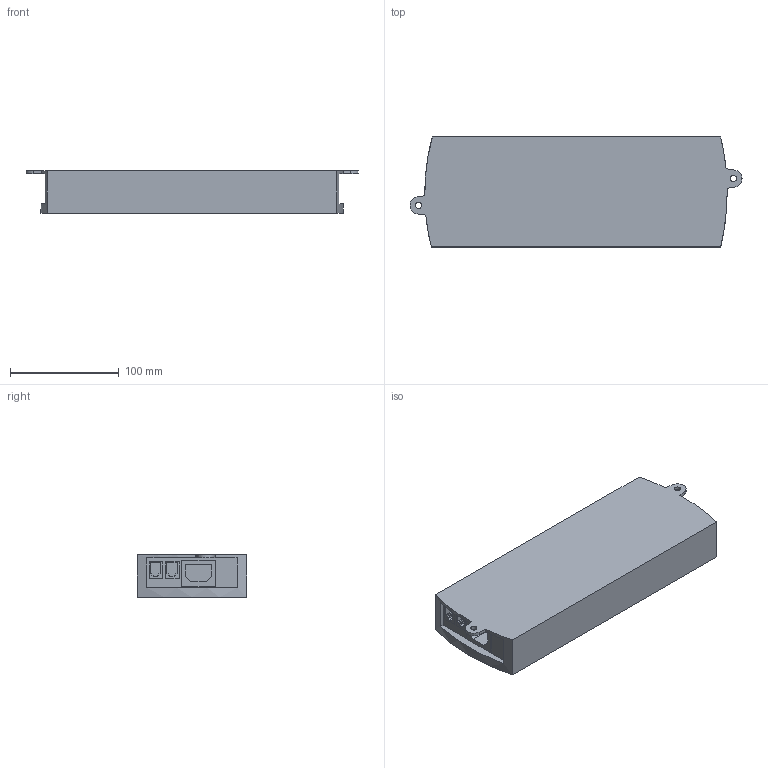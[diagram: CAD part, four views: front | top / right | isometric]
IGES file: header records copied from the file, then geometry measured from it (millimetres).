
Start section: Data from Parasolid IGES Translator 20.0.26, Copyright(c) 2006 Siemens P LM Software. All Rights Reserved.
Global section: file name: 9309942.igs; native system: By Siemens PLM Incorporated; preprocessor: XPlus GENERIC/IGES 20.0.26; author: Noname; organization: Noname; date: 20220127.164112; units: millimetre
Bounding box: 305.87 x 101.3 x 39.5 mm (x, y, z)
Surface area: 94280.2 mm2 (no closed solid volume)
Topology: 0 solids, 0 shells, 210 faces, 1050 edges, 1046 vertices
Faces by surface type: extrusion 201, revolution 9
